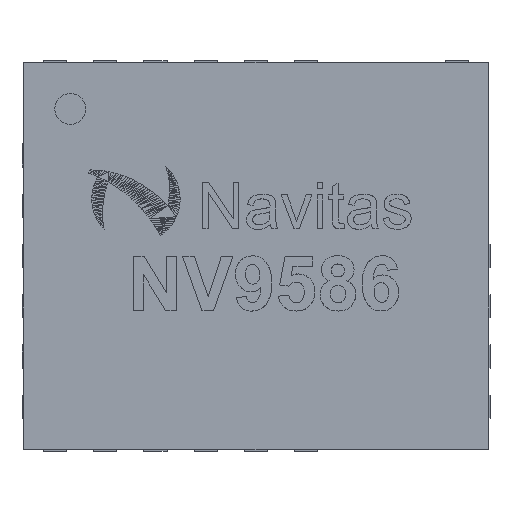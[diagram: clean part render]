
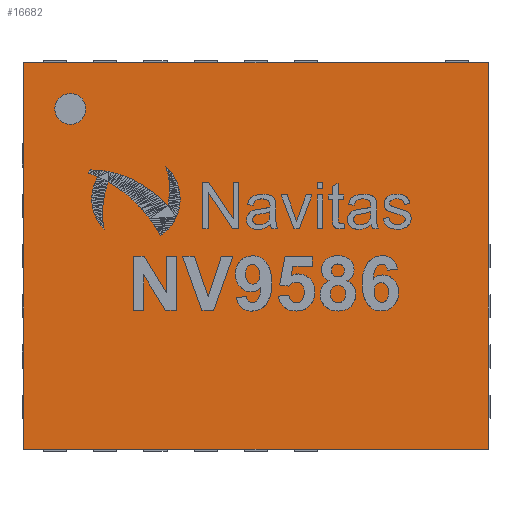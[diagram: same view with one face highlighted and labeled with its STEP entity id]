
A CAD part, top view. The second image highlights one B-rep face of the part: STEP entity #16682.
In plain terms, the highlighted planar face has unit normal (0, 0, 1).
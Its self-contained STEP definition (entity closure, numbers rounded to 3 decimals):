
#717=FACE_OUTER_BOUND('',#1994,.T.);
#1994=EDGE_LOOP('',(#10831,#10832,#10833,#10834));
#3280=LINE('',#23288,#5258);
#3284=LINE('',#23295,#5262);
#3287=LINE('',#23302,#5265);
#3289=LINE('',#23305,#5267);
#5258=VECTOR('',#19102,10.);
#5262=VECTOR('',#19108,10.);
#5265=VECTOR('',#19115,10.);
#5267=VECTOR('',#19119,10.);
#7236=VERTEX_POINT('',#23285);
#7237=VERTEX_POINT('',#23287);
#7239=VERTEX_POINT('',#23293);
#7241=VERTEX_POINT('',#23301);
#8413=EDGE_CURVE('',#7236,#7237,#3280,.T.);
#8417=EDGE_CURVE('',#7239,#7236,#3284,.T.);
#8420=EDGE_CURVE('',#7237,#7241,#3287,.T.);
#8422=EDGE_CURVE('',#7241,#7239,#3289,.T.);
#10831=ORIENTED_EDGE('',*,*,#8422,.F.);
#10832=ORIENTED_EDGE('',*,*,#8420,.F.);
#10833=ORIENTED_EDGE('',*,*,#8413,.F.);
#10834=ORIENTED_EDGE('',*,*,#8417,.F.);
#15616=PLANE('',#17999);
#16682=ADVANCED_FACE('',(#717),#15616,.F.);
#17999=AXIS2_PLACEMENT_3D('',#23306,#19120,#19121);
#19102=DIRECTION('',(0.,1.,0.));
#19108=DIRECTION('',(-1.,0.,0.));
#19115=DIRECTION('',(1.,0.,0.));
#19119=DIRECTION('',(0.,-1.,0.));
#19120=DIRECTION('center_axis',(0.,0.,-1.));
#19121=DIRECTION('ref_axis',(-1.,0.,0.));
#23285=CARTESIAN_POINT('',(-6.,0.,1.7));
#23287=CARTESIAN_POINT('',(-6.,5.,1.7));
#23288=CARTESIAN_POINT('',(-6.,0.,1.7));
#23293=CARTESIAN_POINT('',(0.,0.,1.7));
#23295=CARTESIAN_POINT('',(0.,0.,1.7));
#23301=CARTESIAN_POINT('',(0.,5.,1.7));
#23302=CARTESIAN_POINT('',(-6.,5.,1.7));
#23305=CARTESIAN_POINT('',(0.,5.,1.7));
#23306=CARTESIAN_POINT('Origin',(-3.,2.5,1.7));
